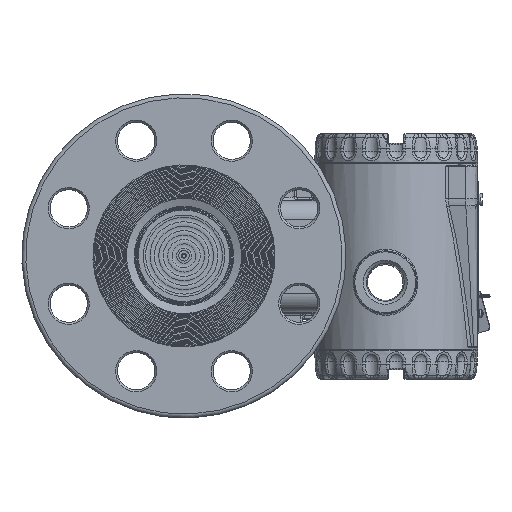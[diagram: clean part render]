
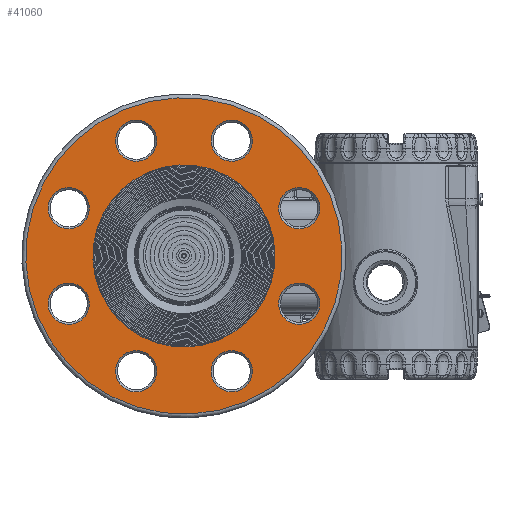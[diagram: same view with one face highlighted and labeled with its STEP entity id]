
A CAD part, top view. The second image highlights one B-rep face of the part: STEP entity #41060.
In plain terms, the highlighted planar face has unit normal (0, 0, 1).
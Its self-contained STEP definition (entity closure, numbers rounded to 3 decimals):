
#690=FACE_BOUND('',#6795,.T.);
#691=FACE_BOUND('',#6796,.T.);
#692=FACE_BOUND('',#6797,.T.);
#693=FACE_BOUND('',#6798,.T.);
#694=FACE_BOUND('',#6799,.T.);
#695=FACE_BOUND('',#6800,.T.);
#696=FACE_BOUND('',#6801,.T.);
#697=FACE_BOUND('',#6802,.T.);
#698=FACE_BOUND('',#6803,.T.);
#2664=PLANE('',#45633);
#4049=FACE_OUTER_BOUND('',#6794,.T.);
#6794=EDGE_LOOP('',(#31290));
#6795=EDGE_LOOP('',(#31291,#31292));
#6796=EDGE_LOOP('',(#31293));
#6797=EDGE_LOOP('',(#31294));
#6798=EDGE_LOOP('',(#31295));
#6799=EDGE_LOOP('',(#31296));
#6800=EDGE_LOOP('',(#31297));
#6801=EDGE_LOOP('',(#31298));
#6802=EDGE_LOOP('',(#31299));
#6803=EDGE_LOOP('',(#31300));
#13537=CIRCLE('',#45630,80.5);
#13539=CIRCLE('',#45634,46.35);
#13540=CIRCLE('',#45635,46.35);
#13541=CIRCLE('',#45636,10.5);
#13542=CIRCLE('',#45637,10.5);
#13543=CIRCLE('',#45638,10.5);
#13544=CIRCLE('',#45639,10.5);
#13545=CIRCLE('',#45640,10.5);
#13546=CIRCLE('',#45641,10.5);
#13547=CIRCLE('',#45642,10.5);
#13548=CIRCLE('',#45643,10.5);
#18007=VERTEX_POINT('',#72568);
#18009=VERTEX_POINT('',#72576);
#18010=VERTEX_POINT('',#72577);
#18011=VERTEX_POINT('',#72580);
#18012=VERTEX_POINT('',#72582);
#18013=VERTEX_POINT('',#72584);
#18014=VERTEX_POINT('',#72586);
#18015=VERTEX_POINT('',#72588);
#18016=VERTEX_POINT('',#72590);
#18017=VERTEX_POINT('',#72592);
#18018=VERTEX_POINT('',#72594);
#22730=EDGE_CURVE('',#18007,#18007,#13537,.T.);
#22733=EDGE_CURVE('',#18009,#18010,#13539,.T.);
#22734=EDGE_CURVE('',#18010,#18009,#13540,.T.);
#22735=EDGE_CURVE('',#18011,#18011,#13541,.T.);
#22736=EDGE_CURVE('',#18012,#18012,#13542,.T.);
#22737=EDGE_CURVE('',#18013,#18013,#13543,.T.);
#22738=EDGE_CURVE('',#18014,#18014,#13544,.T.);
#22739=EDGE_CURVE('',#18015,#18015,#13545,.T.);
#22740=EDGE_CURVE('',#18016,#18016,#13546,.T.);
#22741=EDGE_CURVE('',#18017,#18017,#13547,.T.);
#22742=EDGE_CURVE('',#18018,#18018,#13548,.T.);
#31290=ORIENTED_EDGE('',*,*,#22730,.F.);
#31291=ORIENTED_EDGE('',*,*,#22733,.F.);
#31292=ORIENTED_EDGE('',*,*,#22734,.F.);
#31293=ORIENTED_EDGE('',*,*,#22735,.F.);
#31294=ORIENTED_EDGE('',*,*,#22736,.F.);
#31295=ORIENTED_EDGE('',*,*,#22737,.F.);
#31296=ORIENTED_EDGE('',*,*,#22738,.F.);
#31297=ORIENTED_EDGE('',*,*,#22739,.F.);
#31298=ORIENTED_EDGE('',*,*,#22740,.F.);
#31299=ORIENTED_EDGE('',*,*,#22741,.F.);
#31300=ORIENTED_EDGE('',*,*,#22742,.F.);
#41060=ADVANCED_FACE('',(#4049,#690,#691,#692,#693,#694,#695,#696,#697,
#698),#2664,.T.);
#45630=AXIS2_PLACEMENT_3D('',#72570,#53742,#53743);
#45633=AXIS2_PLACEMENT_3D('',#72575,#53749,#53750);
#45634=AXIS2_PLACEMENT_3D('',#72578,#53751,#53752);
#45635=AXIS2_PLACEMENT_3D('',#72579,#53753,#53754);
#45636=AXIS2_PLACEMENT_3D('',#72581,#53755,#53756);
#45637=AXIS2_PLACEMENT_3D('',#72583,#53757,#53758);
#45638=AXIS2_PLACEMENT_3D('',#72585,#53759,#53760);
#45639=AXIS2_PLACEMENT_3D('',#72587,#53761,#53762);
#45640=AXIS2_PLACEMENT_3D('',#72589,#53763,#53764);
#45641=AXIS2_PLACEMENT_3D('',#72591,#53765,#53766);
#45642=AXIS2_PLACEMENT_3D('',#72593,#53767,#53768);
#45643=AXIS2_PLACEMENT_3D('',#72595,#53769,#53770);
#53742=DIRECTION('center_axis',(0.,0.,-1.));
#53743=DIRECTION('ref_axis',(-1.,0.,0.));
#53749=DIRECTION('center_axis',(0.,0.,1.));
#53750=DIRECTION('ref_axis',(1.,0.,0.));
#53751=DIRECTION('center_axis',(0.,0.,1.));
#53752=DIRECTION('ref_axis',(-1.,0.,0.));
#53753=DIRECTION('center_axis',(0.,0.,1.));
#53754=DIRECTION('ref_axis',(-1.,0.,0.));
#53755=DIRECTION('center_axis',(0.,0.,1.));
#53756=DIRECTION('ref_axis',(0.,1.,0.));
#53757=DIRECTION('center_axis',(0.,0.,1.));
#53758=DIRECTION('ref_axis',(1.,0.,0.));
#53759=DIRECTION('center_axis',(0.,0.,1.));
#53760=DIRECTION('ref_axis',(-1.,0.,0.));
#53761=DIRECTION('center_axis',(0.,0.,1.));
#53762=DIRECTION('ref_axis',(0.707,-0.707,0.));
#53763=DIRECTION('center_axis',(0.,0.,1.));
#53764=DIRECTION('ref_axis',(0.,-1.,0.));
#53765=DIRECTION('center_axis',(0.,0.,1.));
#53766=DIRECTION('ref_axis',(-0.707,-0.707,0.));
#53767=DIRECTION('center_axis',(0.,0.,1.));
#53768=DIRECTION('ref_axis',(0.707,0.707,0.));
#53769=DIRECTION('center_axis',(0.,0.,1.));
#53770=DIRECTION('ref_axis',(-0.707,0.707,0.));
#72568=CARTESIAN_POINT('',(80.5,0.,25.4));
#72570=CARTESIAN_POINT('Origin',(0.,0.,25.4));
#72575=CARTESIAN_POINT('Origin',(0.,0.,
25.4));
#72576=CARTESIAN_POINT('',(46.35,0.,25.4));
#72577=CARTESIAN_POINT('',(-46.35,0.,25.4));
#72578=CARTESIAN_POINT('Origin',(0.,0.,25.4));
#72579=CARTESIAN_POINT('Origin',(0.,0.,25.4));
#72580=CARTESIAN_POINT('',(63.5,-10.5,25.4));
#72581=CARTESIAN_POINT('Origin',(63.5,0.,25.4));
#72582=CARTESIAN_POINT('',(-10.5,-63.5,25.4));
#72583=CARTESIAN_POINT('Origin',(0.,-63.5,25.4));
#72584=CARTESIAN_POINT('',(10.5,63.5,25.4));
#72585=CARTESIAN_POINT('Origin',(0.,63.5,25.4));
#72586=CARTESIAN_POINT('',(-52.326,-37.477,25.4));
#72587=CARTESIAN_POINT('Origin',(-44.901,-44.901,25.4));
#72588=CARTESIAN_POINT('',(-63.5,10.5,25.4));
#72589=CARTESIAN_POINT('Origin',(-63.5,0.,25.4));
#72590=CARTESIAN_POINT('',(-37.477,52.326,25.4));
#72591=CARTESIAN_POINT('Origin',(-44.901,44.901,25.4));
#72592=CARTESIAN_POINT('',(37.477,-52.326,25.4));
#72593=CARTESIAN_POINT('Origin',(44.901,-44.901,25.4));
#72594=CARTESIAN_POINT('',(52.326,37.477,25.4));
#72595=CARTESIAN_POINT('Origin',(44.901,44.901,25.4));
